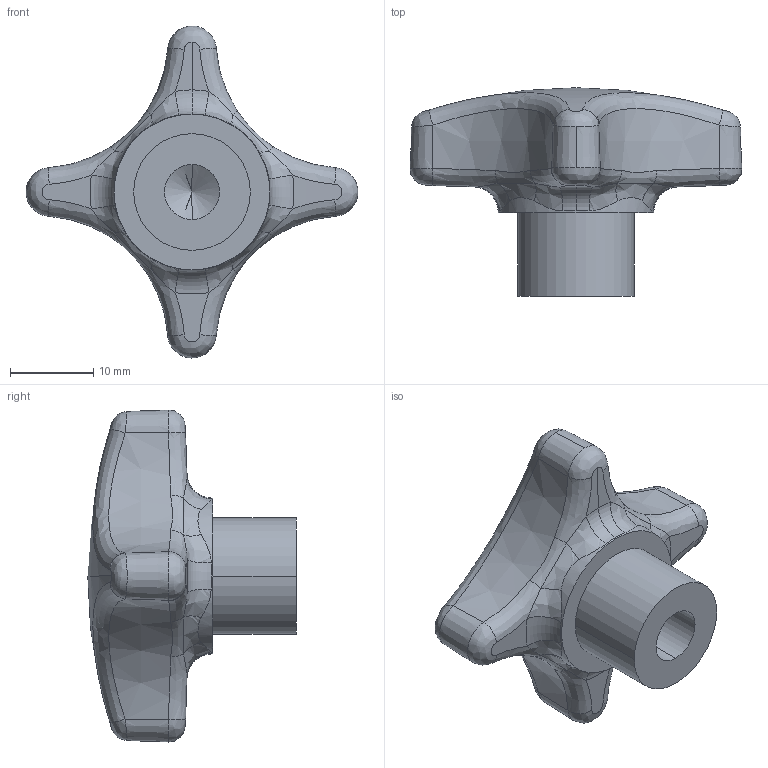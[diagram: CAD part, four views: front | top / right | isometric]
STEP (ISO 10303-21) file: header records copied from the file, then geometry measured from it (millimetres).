
FILE_DESCRIPTION (( 'STEP AP214' ), '1' );
FILE_NAME ('6335.2-40-M8-E-NI.step', '2022-11-14T08:41:24', ( '' ), ( '' ), 'SwSTEP 2.0', 'SolidWorks 2022', '' );
FILE_SCHEMA (( 'AUTOMOTIVE_DESIGN' ));
Length unit declared in the file: millimetre
Products named in the file (1): 6335.2-40-M8-E-NI
Bounding box: 39.83 x 25 x 39.83 mm (x, y, z)
Volume: 8200.7 mm3; surface area: 3190.2 mm2
Topology: 1 solids, 1 shells, 68 faces, 160 edges, 94 vertices
Faces by surface type: bspline 36, cone 19, torus 5, cylinder 4, sphere 2, plane 2
Entity records: 4661 total; most frequent: CARTESIAN_POINT 3240, ORIENTED_EDGE 316, DIRECTION 213, EDGE_CURVE 158, AXIS2_PLACEMENT_3D 97, VERTEX_POINT 94, B_SPLINE_CURVE_WITH_KNOTS 75, EDGE_LOOP 70
